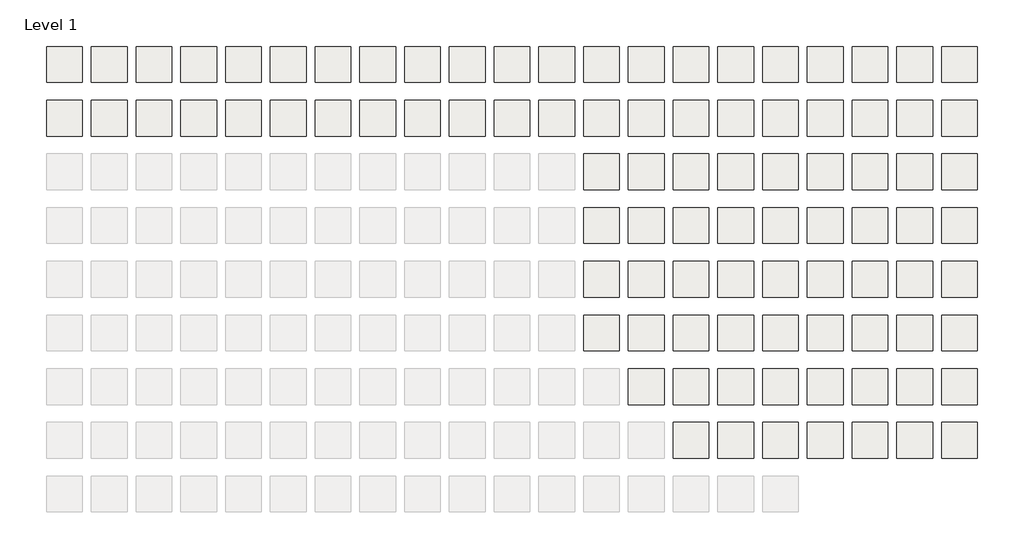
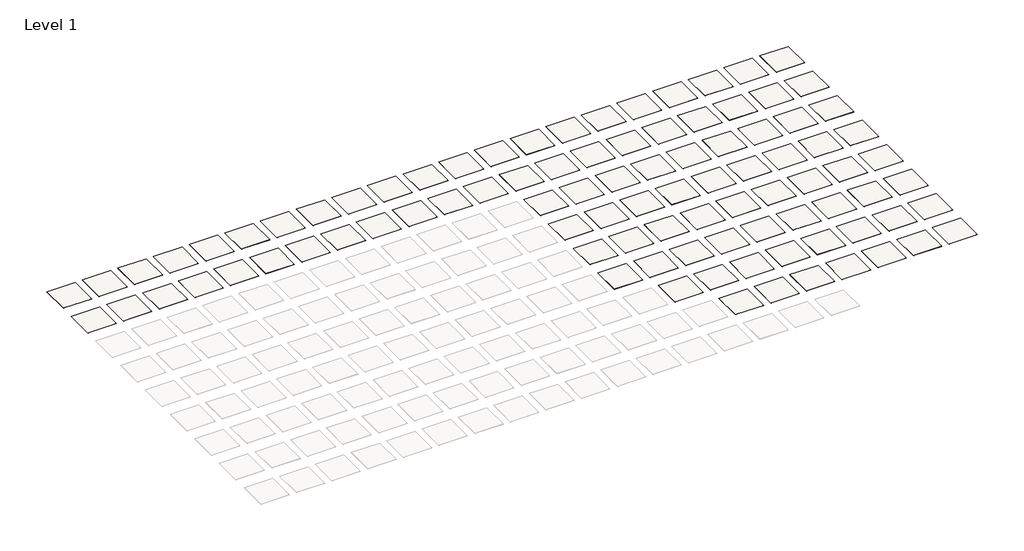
# One storey, part 2 of 2: 93 slabs.
"""IFC4 building model written with IfcOpenShell, lengths in millimetres."""

from ifc_helpers import new_model, si_unit, frame, origin, place, context, project, spatial, polyline, outline, extrude, element, save

model = new_model("IFC4")

# Units and contexts
model_context = context("Model", 3, world=origin())
ifc_project = project(units=[si_unit("LENGTHUNIT", "METRE", prefix="MILLI")], contexts=[model_context])

# Site, building, storey
site = spatial("IfcSite", under=ifc_project)
building = spatial("IfcBuilding", under=site)
storey = spatial("IfcBuildingStorey", under=building, Name="Level 1", Elevation=0.0)

# Slabs
placement = place(None, origin())
element("IfcSlab", 1, ObjectType="Tandus_03747", at=placement, inside=storey, context=model_context, shape_type="SweptSolid", body=[
    extrude(outline(polyline([(-34034.921095, 11042.9400814), (-41350.121095, 11042.9400814), (-41350.121095, 18358.1400814), (-34034.921095, 18358.1400814), (-34034.921095, 11042.9400814)])), frame((0.0, 0.0, -6.35), z_axis=(0.0, 0.0, 1.0), x_axis=(1.0, 0.0, 0.0)), (0.0, 0.0, 1.0), 6.35),
])
element("IfcSlab", 2, ObjectType="Tandus_03590", at=placement, inside=storey, context=model_context, shape_type="SweptSolid", body=[
    extrude(outline(polyline([(-6602.921095, 11042.9400814), (-13918.121095, 11042.9400814), (-13918.121095, 18358.1400814), (-6602.921095, 18358.1400814), (-6602.921095, 11042.9400814)])), frame((0.0, 0.0, -6.35), z_axis=(0.0, 0.0, 1.0), x_axis=(1.0, 0.0, 0.0)), (0.0, 0.0, 1.0), 6.35),
])
element("IfcSlab", 3, ObjectType="Tandus_04163", at=placement, inside=storey, context=model_context, shape_type="SweptSolid", body=[
    extrude(outline(polyline([(20829.078905, 11042.9400814), (13513.878905, 11042.9400814), (13513.878905, 18358.1400814), (20829.078905, 18358.1400814), (20829.078905, 11042.9400814)])), frame((0.0, 0.0, -6.35), z_axis=(0.0, 0.0, 1.0), x_axis=(1.0, 0.0, 0.0)), (0.0, 0.0, 1.0), 6.35),
])
element("IfcSlab", 4, ObjectType="Tandus_04255", at=placement, inside=storey, context=model_context, shape_type="SweptSolid", body=[
    extrude(outline(polyline([(29973.078905, 11042.9400814), (22657.878905, 11042.9400814), (22657.878905, 18358.1400814), (29973.078905, 18358.1400814), (29973.078905, 11042.9400814)])), frame((0.0, 0.0, -6.35), z_axis=(0.0, 0.0, 1.0), x_axis=(1.0, 0.0, 0.0)), (0.0, 0.0, 1.0), 6.35),
])
element("IfcSlab", 5, ObjectType="Tandus_03900", at=placement, inside=storey, context=model_context, shape_type="SweptSolid", body=[
    extrude(outline(polyline([(93981.078905, -21875.4599186), (86665.878905, -21875.4599186), (86665.878905, -14560.2599186), (93981.078905, -14560.2599186), (93981.078905, -21875.4599186)])), frame((0.0, 0.0, -6.35), z_axis=(0.0, 0.0, 1.0), x_axis=(1.0, 0.0, 0.0)), (0.0, 0.0, 1.0), 6.35),
])
element("IfcSlab", 6, ObjectType="Tandus_03934", at=placement, inside=storey, context=model_context, shape_type="SweptSolid", body=[
    extrude(outline(polyline([(148845.078905, -54793.8599186), (141529.878905, -54793.8599186), (141529.878905, -47478.6599186), (148845.078905, -47478.6599186), (148845.078905, -54793.8599186)])), frame((0.0, 0.0, -6.35), z_axis=(0.0, 0.0, 1.0), x_axis=(1.0, 0.0, 0.0)), (0.0, 0.0, 1.0), 6.35),
])
element("IfcSlab", 7, ObjectType="Tandus_02803", at=placement, inside=storey, context=model_context, shape_type="SweptSolid", body=[
    extrude(outline(polyline([(57405.078905, 11042.9400814), (50089.878905, 11042.9400814), (50089.878905, 18358.1400814), (57405.078905, 18358.1400814), (57405.078905, 11042.9400814)])), frame((0.0, 0.0, -6.35), z_axis=(0.0, 0.0, 1.0), x_axis=(1.0, 0.0, 0.0)), (0.0, 0.0, 1.0), 6.35),
])
element("IfcSlab", 8, ObjectType="Tandus_03666", at=placement, inside=storey, context=model_context, shape_type="SweptSolid", body=[
    extrude(outline(polyline([(2541.078905, 11042.9400814), (-4774.121095, 11042.9400814), (-4774.121095, 18358.1400814), (2541.078905, 18358.1400814), (2541.078905, 11042.9400814)])), frame((0.0, 0.0, -6.35), z_axis=(0.0, 0.0, 1.0), x_axis=(1.0, 0.0, 0.0)), (0.0, 0.0, 1.0), 6.35),
])
element("IfcSlab", 9, ObjectType="Tandus_03899", at=placement, inside=storey, context=model_context, shape_type="SweptSolid", body=[
    extrude(outline(polyline([(11685.078905, 11042.9400814), (4369.878905, 11042.9400814), (4369.878905, 18358.1400814), (11685.078905, 18358.1400814), (11685.078905, 11042.9400814)])), frame((0.0, 0.0, -6.35), z_axis=(0.0, 0.0, 1.0), x_axis=(1.0, 0.0, 0.0)), (0.0, 0.0, 1.0), 6.35),
])
element("IfcSlab", 10, ObjectType="Tandus_02931", at=placement, inside=storey, context=model_context, shape_type="SweptSolid", body=[
    extrude(outline(polyline([(84837.078905, 11042.9400814), (77521.878905, 11042.9400814), (77521.878905, 18358.1400814), (84837.078905, 18358.1400814), (84837.078905, 11042.9400814)])), frame((0.0, 0.0, -6.35), z_axis=(0.0, 0.0, 1.0), x_axis=(1.0, 0.0, 0.0)), (0.0, 0.0, 1.0), 6.35),
])
element("IfcSlab", 11, ObjectType="Tandus_03366", at=placement, inside=storey, context=model_context, shape_type="SweptSolid", body=[
    extrude(outline(polyline([(148845.078905, 70.1400814), (141529.878905, 70.1400814), (141529.878905, 7385.3400814), (148845.078905, 7385.3400814), (148845.078905, 70.1400814)])), frame((0.0, 0.0, -6.35), z_axis=(0.0, 0.0, 1.0), x_axis=(1.0, 0.0, 0.0)), (0.0, 0.0, 1.0), 6.35),
])
element("IfcSlab", 12, ObjectType="Tandus_03026", at=placement, inside=storey, context=model_context, shape_type="SweptSolid", body=[
    extrude(outline(polyline([(-24890.921095, 11042.9400814), (-32206.121095, 11042.9400814), (-32206.121095, 18358.1400814), (-24890.921095, 18358.1400814), (-24890.921095, 11042.9400814)])), frame((0.0, 0.0, -6.35), z_axis=(0.0, 0.0, 1.0), x_axis=(1.0, 0.0, 0.0)), (0.0, 0.0, 1.0), 6.35),
])
element("IfcSlab", 13, ObjectType="Tandus_02578", at=placement, inside=storey, context=model_context, shape_type="SweptSolid", body=[
    extrude(outline(polyline([(66549.078905, 11042.9400814), (59233.878905, 11042.9400814), (59233.878905, 18358.1400814), (66549.078905, 18358.1400814), (66549.078905, 11042.9400814)])), frame((0.0, 0.0, -6.35), z_axis=(0.0, 0.0, 1.0), x_axis=(1.0, 0.0, 0.0)), (0.0, 0.0, 1.0), 6.35),
])
element("IfcSlab", 14, ObjectType="Tandus_03333", at=placement, inside=storey, context=model_context, shape_type="SweptSolid", body=[
    extrude(outline(polyline([(75693.078905, 11042.9400814), (68377.878905, 11042.9400814), (68377.878905, 18358.1400814), (75693.078905, 18358.1400814), (75693.078905, 11042.9400814)])), frame((0.0, 0.0, -6.35), z_axis=(0.0, 0.0, 1.0), x_axis=(1.0, 0.0, 0.0)), (0.0, 0.0, 1.0), 6.35),
])
element("IfcSlab", 15, ObjectType="Tandus_03579", at=placement, inside=storey, context=model_context, shape_type="SweptSolid", body=[
    extrude(outline(polyline([(-15746.921095, 11042.9400814), (-23062.121095, 11042.9400814), (-23062.121095, 18358.1400814), (-15746.921095, 18358.1400814), (-15746.921095, 11042.9400814)])), frame((0.0, 0.0, -6.35), z_axis=(0.0, 0.0, 1.0), x_axis=(1.0, 0.0, 0.0)), (0.0, 0.0, 1.0), 6.35),
])
element("IfcSlab", 16, ObjectType="Tandus_04336", at=placement, inside=storey, context=model_context, shape_type="SweptSolid", body=[
    extrude(outline(polyline([(39117.078905, 11042.9400814), (31801.878905, 11042.9400814), (31801.878905, 18358.1400814), (39117.078905, 18358.1400814), (39117.078905, 11042.9400814)])), frame((0.0, 0.0, -6.35), z_axis=(0.0, 0.0, 1.0), x_axis=(1.0, 0.0, 0.0)), (0.0, 0.0, 1.0), 6.35),
])
element("IfcSlab", 17, ObjectType="Tandus_48002", at=placement, inside=storey, context=model_context, shape_type="SweptSolid", body=[
    extrude(outline(polyline([(48261.078905, 11042.9400814), (40945.878905, 11042.9400814), (40945.878905, 18358.1400814), (48261.078905, 18358.1400814), (48261.078905, 11042.9400814)])), frame((0.0, 0.0, -6.35), z_axis=(0.0, 0.0, 1.0), x_axis=(1.0, 0.0, 0.0)), (0.0, 0.0, 1.0), 6.35),
])
element("IfcSlab", 18, ObjectType="Tandus_48003", at=placement, inside=storey, context=model_context, shape_type="SweptSolid", body=[
    extrude(outline(polyline([(20829.078905, 70.1400814), (13513.878905, 70.1400814), (13513.878905, 7385.3400814), (20829.078905, 7385.3400814), (20829.078905, 70.1400814)])), frame((0.0, 0.0, -6.35), z_axis=(0.0, 0.0, 1.0), x_axis=(1.0, 0.0, 0.0)), (0.0, 0.0, 1.0), 6.35),
])
element("IfcSlab", 19, ObjectType="Tandus_03724", at=placement, inside=storey, context=model_context, shape_type="SweptSolid", body=[
    extrude(outline(polyline([(93981.078905, 11042.9400814), (86665.878905, 11042.9400814), (86665.878905, 18358.1400814), (93981.078905, 18358.1400814), (93981.078905, 11042.9400814)])), frame((0.0, 0.0, -6.35), z_axis=(0.0, 0.0, 1.0), x_axis=(1.0, 0.0, 0.0)), (0.0, 0.0, 1.0), 6.35),
])
element("IfcSlab", 20, ObjectType="Tandus_04224", at=placement, inside=storey, context=model_context, shape_type="SweptSolid", body=[
    extrude(outline(polyline([(103125.078905, 11042.9400814), (95809.878905, 11042.9400814), (95809.878905, 18358.1400814), (103125.078905, 18358.1400814), (103125.078905, 11042.9400814)])), frame((0.0, 0.0, -6.35), z_axis=(0.0, 0.0, 1.0), x_axis=(1.0, 0.0, 0.0)), (0.0, 0.0, 1.0), 6.35),
])
element("IfcSlab", 21, ObjectType="Tandus_44041", at=placement, inside=storey, context=model_context, shape_type="SweptSolid", body=[
    extrude(outline(polyline([(112269.078905, 11042.9400814), (104953.878905, 11042.9400814), (104953.878905, 18358.1400814), (112269.078905, 18358.1400814), (112269.078905, 11042.9400814)])), frame((0.0, 0.0, -6.35), z_axis=(0.0, 0.0, 1.0), x_axis=(1.0, 0.0, 0.0)), (0.0, 0.0, 1.0), 6.35),
])
element("IfcSlab", 22, ObjectType="Tandus_01957", at=placement, inside=storey, context=model_context, shape_type="SweptSolid", body=[
    extrude(outline(polyline([(121413.078905, 11042.9400814), (114097.878905, 11042.9400814), (114097.878905, 18358.1400814), (121413.078905, 18358.1400814), (121413.078905, 11042.9400814)])), frame((0.0, 0.0, -6.35), z_axis=(0.0, 0.0, 1.0), x_axis=(1.0, 0.0, 0.0)), (0.0, 0.0, 1.0), 6.35),
])
element("IfcSlab", 23, ObjectType="Tandus_44039", at=placement, inside=storey, context=model_context, shape_type="SweptSolid", body=[
    extrude(outline(polyline([(130557.078905, 11042.9400814), (123241.878905, 11042.9400814), (123241.878905, 18358.1400814), (130557.078905, 18358.1400814), (130557.078905, 11042.9400814)])), frame((0.0, 0.0, -6.35), z_axis=(0.0, 0.0, 1.0), x_axis=(1.0, 0.0, 0.0)), (0.0, 0.0, 1.0), 6.35),
])
element("IfcSlab", 24, ObjectType="Tandus_04162", at=placement, inside=storey, context=model_context, shape_type="SweptSolid", body=[
    extrude(outline(polyline([(139701.078905, 11042.9400814), (132385.878905, 11042.9400814), (132385.878905, 18358.1400814), (139701.078905, 18358.1400814), (139701.078905, 11042.9400814)])), frame((0.0, 0.0, -6.35), z_axis=(0.0, 0.0, 1.0), x_axis=(1.0, 0.0, 0.0)), (0.0, 0.0, 1.0), 6.35),
])
element("IfcSlab", 25, ObjectType="Tandus_03974", at=placement, inside=storey, context=model_context, shape_type="SweptSolid", body=[
    extrude(outline(polyline([(148845.078905, 11042.9400814), (141529.878905, 11042.9400814), (141529.878905, 18358.1400814), (148845.078905, 18358.1400814), (148845.078905, 11042.9400814)])), frame((0.0, 0.0, -6.35), z_axis=(0.0, 0.0, 1.0), x_axis=(1.0, 0.0, 0.0)), (0.0, 0.0, 1.0), 6.35),
])
element("IfcSlab", 26, ObjectType="Tandus_02443", at=placement, inside=storey, context=model_context, shape_type="SweptSolid", body=[
    extrude(outline(polyline([(-34034.921095, 70.1400814), (-41350.121095, 70.1400814), (-41350.121095, 7385.3400814), (-34034.921095, 7385.3400814), (-34034.921095, 70.1400814)])), frame((0.0, 0.0, -6.35), z_axis=(0.0, 0.0, 1.0), x_axis=(1.0, 0.0, 0.0)), (0.0, 0.0, 1.0), 6.35),
])
element("IfcSlab", 27, ObjectType="Tandus_03343", at=placement, inside=storey, context=model_context, shape_type="SweptSolid", body=[
    extrude(outline(polyline([(-24890.921095, 70.1400814), (-32206.121095, 70.1400814), (-32206.121095, 7385.3400814), (-24890.921095, 7385.3400814), (-24890.921095, 70.1400814)])), frame((0.0, 0.0, -6.35), z_axis=(0.0, 0.0, 1.0), x_axis=(1.0, 0.0, 0.0)), (0.0, 0.0, 1.0), 6.35),
])
element("IfcSlab", 28, ObjectType="Tandus_03479", at=placement, inside=storey, context=model_context, shape_type="SweptSolid", body=[
    extrude(outline(polyline([(-15746.921095, 70.1400814), (-23062.121095, 70.1400814), (-23062.121095, 7385.3400814), (-15746.921095, 7385.3400814), (-15746.921095, 70.1400814)])), frame((0.0, 0.0, -6.35), z_axis=(0.0, 0.0, 1.0), x_axis=(1.0, 0.0, 0.0)), (0.0, 0.0, 1.0), 6.35),
])
element("IfcSlab", 29, ObjectType="Tandus_03146", at=placement, inside=storey, context=model_context, shape_type="SweptSolid", body=[
    extrude(outline(polyline([(-6602.921095, 70.1400814), (-13918.121095, 70.1400814), (-13918.121095, 7385.3400814), (-6602.921095, 7385.3400814), (-6602.921095, 70.1400814)])), frame((0.0, 0.0, -6.35), z_axis=(0.0, 0.0, 1.0), x_axis=(1.0, 0.0, 0.0)), (0.0, 0.0, 1.0), 6.35),
])
element("IfcSlab", 30, ObjectType="Tandus_04252", at=placement, inside=storey, context=model_context, shape_type="SweptSolid", body=[
    extrude(outline(polyline([(2541.078905, 70.1400814), (-4774.121095, 70.1400814), (-4774.121095, 7385.3400814), (2541.078905, 7385.3400814), (2541.078905, 70.1400814)])), frame((0.0, 0.0, -6.35), z_axis=(0.0, 0.0, 1.0), x_axis=(1.0, 0.0, 0.0)), (0.0, 0.0, 1.0), 6.35),
])
element("IfcSlab", 31, ObjectType="Tandus_02591", at=placement, inside=storey, context=model_context, shape_type="SweptSolid", body=[
    extrude(outline(polyline([(11685.078905, 70.1400814), (4369.878905, 70.1400814), (4369.878905, 7385.3400814), (11685.078905, 7385.3400814), (11685.078905, 70.1400814)])), frame((0.0, 0.0, -6.35), z_axis=(0.0, 0.0, 1.0), x_axis=(1.0, 0.0, 0.0)), (0.0, 0.0, 1.0), 6.35),
])
element("IfcSlab", 32, ObjectType="Tandus_03672", at=placement, inside=storey, context=model_context, shape_type="SweptSolid", body=[
    extrude(outline(polyline([(29973.078905, 70.1400814), (22657.878905, 70.1400814), (22657.878905, 7385.3400814), (29973.078905, 7385.3400814), (29973.078905, 70.1400814)])), frame((0.0, 0.0, -6.35), z_axis=(0.0, 0.0, 1.0), x_axis=(1.0, 0.0, 0.0)), (0.0, 0.0, 1.0), 6.35),
])
element("IfcSlab", 33, ObjectType="Tandus_04119", at=placement, inside=storey, context=model_context, shape_type="SweptSolid", body=[
    extrude(outline(polyline([(39117.078905, 70.1400814), (31801.878905, 70.1400814), (31801.878905, 7385.3400814), (39117.078905, 7385.3400814), (39117.078905, 70.1400814)])), frame((0.0, 0.0, -6.35), z_axis=(0.0, 0.0, 1.0), x_axis=(1.0, 0.0, 0.0)), (0.0, 0.0, 1.0), 6.35),
])
element("IfcSlab", 34, ObjectType="Tandus_05187", at=placement, inside=storey, context=model_context, shape_type="SweptSolid", body=[
    extrude(outline(polyline([(48261.078905, 70.1400814), (40945.878905, 70.1400814), (40945.878905, 7385.3400814), (48261.078905, 7385.3400814), (48261.078905, 70.1400814)])), frame((0.0, 0.0, -6.35), z_axis=(0.0, 0.0, 1.0), x_axis=(1.0, 0.0, 0.0)), (0.0, 0.0, 1.0), 6.35),
])
element("IfcSlab", 35, ObjectType="Tandus_05175", at=placement, inside=storey, context=model_context, shape_type="SweptSolid", body=[
    extrude(outline(polyline([(57405.078905, 70.1400814), (50089.878905, 70.1400814), (50089.878905, 7385.3400814), (57405.078905, 7385.3400814), (57405.078905, 70.1400814)])), frame((0.0, 0.0, -6.35), z_axis=(0.0, 0.0, 1.0), x_axis=(1.0, 0.0, 0.0)), (0.0, 0.0, 1.0), 6.35),
])
element("IfcSlab", 36, ObjectType="Tandus_03746", at=placement, inside=storey, context=model_context, shape_type="SweptSolid", body=[
    extrude(outline(polyline([(66549.078905, 70.1400814), (59233.878905, 70.1400814), (59233.878905, 7385.3400814), (66549.078905, 7385.3400814), (66549.078905, 70.1400814)])), frame((0.0, 0.0, -6.35), z_axis=(0.0, 0.0, 1.0), x_axis=(1.0, 0.0, 0.0)), (0.0, 0.0, 1.0), 6.35),
])
element("IfcSlab", 37, ObjectType="Tandus_03377", at=placement, inside=storey, context=model_context, shape_type="SweptSolid", body=[
    extrude(outline(polyline([(75693.078905, 70.1400814), (68377.878905, 70.1400814), (68377.878905, 7385.3400814), (75693.078905, 7385.3400814), (75693.078905, 70.1400814)])), frame((0.0, 0.0, -6.35), z_axis=(0.0, 0.0, 1.0), x_axis=(1.0, 0.0, 0.0)), (0.0, 0.0, 1.0), 6.35),
])
element("IfcSlab", 38, ObjectType="Tandus_03853", at=placement, inside=storey, context=model_context, shape_type="SweptSolid", body=[
    extrude(outline(polyline([(84837.078905, 70.1400814), (77521.878905, 70.1400814), (77521.878905, 7385.3400814), (84837.078905, 7385.3400814), (84837.078905, 70.1400814)])), frame((0.0, 0.0, -6.35), z_axis=(0.0, 0.0, 1.0), x_axis=(1.0, 0.0, 0.0)), (0.0, 0.0, 1.0), 6.35),
])
element("IfcSlab", 39, ObjectType="Tandus_04389", at=placement, inside=storey, context=model_context, shape_type="SweptSolid", body=[
    extrude(outline(polyline([(93981.078905, 70.1400814), (86665.878905, 70.1400814), (86665.878905, 7385.3400814), (93981.078905, 7385.3400814), (93981.078905, 70.1400814)])), frame((0.0, 0.0, -6.35), z_axis=(0.0, 0.0, 1.0), x_axis=(1.0, 0.0, 0.0)), (0.0, 0.0, 1.0), 6.35),
])
element("IfcSlab", 40, ObjectType="Tandus_04370", at=placement, inside=storey, context=model_context, shape_type="SweptSolid", body=[
    extrude(outline(polyline([(103125.078905, 70.1400814), (95809.878905, 70.1400814), (95809.878905, 7385.3400814), (103125.078905, 7385.3400814), (103125.078905, 70.1400814)])), frame((0.0, 0.0, -6.35), z_axis=(0.0, 0.0, 1.0), x_axis=(1.0, 0.0, 0.0)), (0.0, 0.0, 1.0), 6.35),
])
element("IfcSlab", 41, ObjectType="Tandus_03848", at=placement, inside=storey, context=model_context, shape_type="SweptSolid", body=[
    extrude(outline(polyline([(112269.078905, 70.1400814), (104953.878905, 70.1400814), (104953.878905, 7385.3400814), (112269.078905, 7385.3400814), (112269.078905, 70.1400814)])), frame((0.0, 0.0, -6.35), z_axis=(0.0, 0.0, 1.0), x_axis=(1.0, 0.0, 0.0)), (0.0, 0.0, 1.0), 6.35),
])
element("IfcSlab", 42, ObjectType="Tandus_02969", at=placement, inside=storey, context=model_context, shape_type="SweptSolid", body=[
    extrude(outline(polyline([(121413.078905, 70.1400814), (114097.878905, 70.1400814), (114097.878905, 7385.3400814), (121413.078905, 7385.3400814), (121413.078905, 70.1400814)])), frame((0.0, 0.0, -6.35), z_axis=(0.0, 0.0, 1.0), x_axis=(1.0, 0.0, 0.0)), (0.0, 0.0, 1.0), 6.35),
])
element("IfcSlab", 43, ObjectType="Tandus_02127", at=placement, inside=storey, context=model_context, shape_type="SweptSolid", body=[
    extrude(outline(polyline([(130557.078905, 70.1400814), (123241.878905, 70.1400814), (123241.878905, 7385.3400814), (130557.078905, 7385.3400814), (130557.078905, 70.1400814)])), frame((0.0, 0.0, -6.35), z_axis=(0.0, 0.0, 1.0), x_axis=(1.0, 0.0, 0.0)), (0.0, 0.0, 1.0), 6.35),
])
element("IfcSlab", 44, ObjectType="Tandus_03867", at=placement, inside=storey, context=model_context, shape_type="SweptSolid", body=[
    extrude(outline(polyline([(139701.078905, 70.1400814), (132385.878905, 70.1400814), (132385.878905, 7385.3400814), (139701.078905, 7385.3400814), (139701.078905, 70.1400814)])), frame((0.0, 0.0, -6.35), z_axis=(0.0, 0.0, 1.0), x_axis=(1.0, 0.0, 0.0)), (0.0, 0.0, 1.0), 6.35),
])
element("IfcSlab", 45, ObjectType="Tandus_02667", at=placement, inside=storey, context=model_context, shape_type="SweptSolid", body=[
    extrude(outline(polyline([(75693.078905, -10902.6599186), (68377.878905, -10902.6599186), (68377.878905, -3587.4599186), (75693.078905, -3587.4599186), (75693.078905, -10902.6599186)])), frame((0.0, 0.0, -6.35), z_axis=(0.0, 0.0, 1.0), x_axis=(1.0, 0.0, 0.0)), (0.0, 0.0, 1.0), 6.35),
])
element("IfcSlab", 46, ObjectType="Tandus_04087", at=placement, inside=storey, context=model_context, shape_type="SweptSolid", body=[
    extrude(outline(polyline([(84837.078905, -10902.6599186), (77521.878905, -10902.6599186), (77521.878905, -3587.4599186), (84837.078905, -3587.4599186), (84837.078905, -10902.6599186)])), frame((0.0, 0.0, -6.35), z_axis=(0.0, 0.0, 1.0), x_axis=(1.0, 0.0, 0.0)), (0.0, 0.0, 1.0), 6.35),
])
element("IfcSlab", 47, ObjectType="Tandus_03136", at=placement, inside=storey, context=model_context, shape_type="SweptSolid", body=[
    extrude(outline(polyline([(93981.078905, -10902.6599186), (86665.878905, -10902.6599186), (86665.878905, -3587.4599186), (93981.078905, -3587.4599186), (93981.078905, -10902.6599186)])), frame((0.0, 0.0, -6.35), z_axis=(0.0, 0.0, 1.0), x_axis=(1.0, 0.0, 0.0)), (0.0, 0.0, 1.0), 6.35),
])
element("IfcSlab", 48, ObjectType="Tandus_03671", at=placement, inside=storey, context=model_context, shape_type="SweptSolid", body=[
    extrude(outline(polyline([(103125.078905, -10902.6599186), (95809.878905, -10902.6599186), (95809.878905, -3587.4599186), (103125.078905, -3587.4599186), (103125.078905, -10902.6599186)])), frame((0.0, 0.0, -6.35), z_axis=(0.0, 0.0, 1.0), x_axis=(1.0, 0.0, 0.0)), (0.0, 0.0, 1.0), 6.35),
])
element("IfcSlab", 49, ObjectType="Tandus_03748", at=placement, inside=storey, context=model_context, shape_type="SweptSolid", body=[
    extrude(outline(polyline([(112269.078905, -10902.6599186), (104953.878905, -10902.6599186), (104953.878905, -3587.4599186), (112269.078905, -3587.4599186), (112269.078905, -10902.6599186)])), frame((0.0, 0.0, -6.35), z_axis=(0.0, 0.0, 1.0), x_axis=(1.0, 0.0, 0.0)), (0.0, 0.0, 1.0), 6.35),
])
element("IfcSlab", 50, ObjectType="Tandus_02977", at=placement, inside=storey, context=model_context, shape_type="SweptSolid", body=[
    extrude(outline(polyline([(121413.078905, -10902.6599186), (114097.878905, -10902.6599186), (114097.878905, -3587.4599186), (121413.078905, -3587.4599186), (121413.078905, -10902.6599186)])), frame((0.0, 0.0, -6.35), z_axis=(0.0, 0.0, 1.0), x_axis=(1.0, 0.0, 0.0)), (0.0, 0.0, 1.0), 6.35),
])
element("IfcSlab", 51, ObjectType="Tandus_03352", at=placement, inside=storey, context=model_context, shape_type="SweptSolid", body=[
    extrude(outline(polyline([(130557.078905, -10902.6599186), (123241.878905, -10902.6599186), (123241.878905, -3587.4599186), (130557.078905, -3587.4599186), (130557.078905, -10902.6599186)])), frame((0.0, 0.0, -6.35), z_axis=(0.0, 0.0, 1.0), x_axis=(1.0, 0.0, 0.0)), (0.0, 0.0, 1.0), 6.35),
])
element("IfcSlab", 52, ObjectType="Tandus_03101", at=placement, inside=storey, context=model_context, shape_type="SweptSolid", body=[
    extrude(outline(polyline([(139701.078905, -10902.6599186), (132385.878905, -10902.6599186), (132385.878905, -3587.4599186), (139701.078905, -3587.4599186), (139701.078905, -10902.6599186)])), frame((0.0, 0.0, -6.35), z_axis=(0.0, 0.0, 1.0), x_axis=(1.0, 0.0, 0.0)), (0.0, 0.0, 1.0), 6.35),
])
element("IfcSlab", 53, ObjectType="Tandus_03669", at=placement, inside=storey, context=model_context, shape_type="SweptSolid", body=[
    extrude(outline(polyline([(148845.078905, -10902.6599186), (141529.878905, -10902.6599186), (141529.878905, -3587.4599186), (148845.078905, -3587.4599186), (148845.078905, -10902.6599186)])), frame((0.0, 0.0, -6.35), z_axis=(0.0, 0.0, 1.0), x_axis=(1.0, 0.0, 0.0)), (0.0, 0.0, 1.0), 6.35),
])
element("IfcSlab", 54, ObjectType="Tandus_04337", at=placement, inside=storey, context=model_context, shape_type="SweptSolid", body=[
    extrude(outline(polyline([(75693.078905, -21875.4599186), (68377.878905, -21875.4599186), (68377.878905, -14560.2599186), (75693.078905, -14560.2599186), (75693.078905, -21875.4599186)])), frame((0.0, 0.0, -6.35), z_axis=(0.0, 0.0, 1.0), x_axis=(1.0, 0.0, 0.0)), (0.0, 0.0, 1.0), 6.35),
])
element("IfcSlab", 55, ObjectType="Tandus_04415", at=placement, inside=storey, context=model_context, shape_type="SweptSolid", body=[
    extrude(outline(polyline([(84837.078905, -21875.4599186), (77521.878905, -21875.4599186), (77521.878905, -14560.2599186), (84837.078905, -14560.2599186), (84837.078905, -21875.4599186)])), frame((0.0, 0.0, -6.35), z_axis=(0.0, 0.0, 1.0), x_axis=(1.0, 0.0, 0.0)), (0.0, 0.0, 1.0), 6.35),
])
element("IfcSlab", 56, ObjectType="Tandus_02499", at=placement, inside=storey, context=model_context, shape_type="SweptSolid", body=[
    extrude(outline(polyline([(103125.078905, -21875.4599186), (95809.878905, -21875.4599186), (95809.878905, -14560.2599186), (103125.078905, -14560.2599186), (103125.078905, -21875.4599186)])), frame((0.0, 0.0, -6.35), z_axis=(0.0, 0.0, 1.0), x_axis=(1.0, 0.0, 0.0)), (0.0, 0.0, 1.0), 6.35),
])
element("IfcSlab", 57, ObjectType="Tandus_04042", at=placement, inside=storey, context=model_context, shape_type="SweptSolid", body=[
    extrude(outline(polyline([(112269.078905, -21875.4599186), (104953.878905, -21875.4599186), (104953.878905, -14560.2599186), (112269.078905, -14560.2599186), (112269.078905, -21875.4599186)])), frame((0.0, 0.0, -6.35), z_axis=(0.0, 0.0, 1.0), x_axis=(1.0, 0.0, 0.0)), (0.0, 0.0, 1.0), 6.35),
])
element("IfcSlab", 58, ObjectType="Tandus_03606", at=placement, inside=storey, context=model_context, shape_type="SweptSolid", body=[
    extrude(outline(polyline([(121413.078905, -21875.4599186), (114097.878905, -21875.4599186), (114097.878905, -14560.2599186), (121413.078905, -14560.2599186), (121413.078905, -21875.4599186)])), frame((0.0, 0.0, -6.35), z_axis=(0.0, 0.0, 1.0), x_axis=(1.0, 0.0, 0.0)), (0.0, 0.0, 1.0), 6.35),
])
element("IfcSlab", 59, ObjectType="Tandus_04339", at=placement, inside=storey, context=model_context, shape_type="SweptSolid", body=[
    extrude(outline(polyline([(130557.078905, -21875.4599186), (123241.878905, -21875.4599186), (123241.878905, -14560.2599186), (130557.078905, -14560.2599186), (130557.078905, -21875.4599186)])), frame((0.0, 0.0, -6.35), z_axis=(0.0, 0.0, 1.0), x_axis=(1.0, 0.0, 0.0)), (0.0, 0.0, 1.0), 6.35),
])
element("IfcSlab", 60, ObjectType="Tandus_03581", at=placement, inside=storey, context=model_context, shape_type="SweptSolid", body=[
    extrude(outline(polyline([(139701.078905, -21875.4599186), (132385.878905, -21875.4599186), (132385.878905, -14560.2599186), (139701.078905, -14560.2599186), (139701.078905, -21875.4599186)])), frame((0.0, 0.0, -6.35), z_axis=(0.0, 0.0, 1.0), x_axis=(1.0, 0.0, 0.0)), (0.0, 0.0, 1.0), 6.35),
])
element("IfcSlab", 61, ObjectType="Tandus_04073", at=placement, inside=storey, context=model_context, shape_type="SweptSolid", body=[
    extrude(outline(polyline([(148845.078905, -21875.4599186), (141529.878905, -21875.4599186), (141529.878905, -14560.2599186), (148845.078905, -14560.2599186), (148845.078905, -21875.4599186)])), frame((0.0, 0.0, -6.35), z_axis=(0.0, 0.0, 1.0), x_axis=(1.0, 0.0, 0.0)), (0.0, 0.0, 1.0), 6.35),
])
element("IfcSlab", 62, ObjectType="Tandus_40008", at=placement, inside=storey, context=model_context, shape_type="SweptSolid", body=[
    extrude(outline(polyline([(75693.078905, -32848.2599186), (68377.878905, -32848.2599186), (68377.878905, -25533.0599186), (75693.078905, -25533.0599186), (75693.078905, -32848.2599186)])), frame((0.0, 0.0, -6.35), z_axis=(0.0, 0.0, 1.0), x_axis=(1.0, 0.0, 0.0)), (0.0, 0.0, 1.0), 6.35),
])
element("IfcSlab", 63, ObjectType="Tandus_32032", at=placement, inside=storey, context=model_context, shape_type="SweptSolid", body=[
    extrude(outline(polyline([(84837.078905, -32848.2599186), (77521.878905, -32848.2599186), (77521.878905, -25533.0599186), (84837.078905, -25533.0599186), (84837.078905, -32848.2599186)])), frame((0.0, 0.0, -6.35), z_axis=(0.0, 0.0, 1.0), x_axis=(1.0, 0.0, 0.0)), (0.0, 0.0, 1.0), 6.35),
])
element("IfcSlab", 64, ObjectType="Tandus_04075", at=placement, inside=storey, context=model_context, shape_type="SweptSolid", body=[
    extrude(outline(polyline([(103125.078905, -32848.2599186), (95809.878905, -32848.2599186), (95809.878905, -25533.0599186), (103125.078905, -25533.0599186), (103125.078905, -32848.2599186)])), frame((0.0, 0.0, -6.35), z_axis=(0.0, 0.0, 1.0), x_axis=(1.0, 0.0, 0.0)), (0.0, 0.0, 1.0), 6.35),
])
element("IfcSlab", 65, ObjectType="Tandus_03988", at=placement, inside=storey, context=model_context, shape_type="SweptSolid", body=[
    extrude(outline(polyline([(93981.078905, -32848.2599186), (86665.878905, -32848.2599186), (86665.878905, -25533.0599186), (93981.078905, -25533.0599186), (93981.078905, -32848.2599186)])), frame((0.0, 0.0, -6.35), z_axis=(0.0, 0.0, 1.0), x_axis=(1.0, 0.0, 0.0)), (0.0, 0.0, 1.0), 6.35),
])
element("IfcSlab", 66, ObjectType="Tandus_40029", at=placement, inside=storey, context=model_context, shape_type="SweptSolid", body=[
    extrude(outline(polyline([(112269.078905, -32848.2599186), (104953.878905, -32848.2599186), (104953.878905, -25533.0599186), (112269.078905, -25533.0599186), (112269.078905, -32848.2599186)])), frame((0.0, 0.0, -6.35), z_axis=(0.0, 0.0, 1.0), x_axis=(1.0, 0.0, 0.0)), (0.0, 0.0, 1.0), 6.35),
])
element("IfcSlab", 67, ObjectType="Tandus_60121", at=placement, inside=storey, context=model_context, shape_type="SweptSolid", body=[
    extrude(outline(polyline([(121413.078905, -32848.2599186), (114097.878905, -32848.2599186), (114097.878905, -25533.0599186), (121413.078905, -25533.0599186), (121413.078905, -32848.2599186)])), frame((0.0, 0.0, -6.35), z_axis=(0.0, 0.0, 1.0), x_axis=(1.0, 0.0, 0.0)), (0.0, 0.0, 1.0), 6.35),
])
element("IfcSlab", 68, ObjectType="Tandus_40025", at=placement, inside=storey, context=model_context, shape_type="SweptSolid", body=[
    extrude(outline(polyline([(130557.078905, -32848.2599186), (123241.878905, -32848.2599186), (123241.878905, -25533.0599186), (130557.078905, -25533.0599186), (130557.078905, -32848.2599186)])), frame((0.0, 0.0, -6.35), z_axis=(0.0, 0.0, 1.0), x_axis=(1.0, 0.0, 0.0)), (0.0, 0.0, 1.0), 6.35),
])
element("IfcSlab", 69, ObjectType="Tandus_40023", at=placement, inside=storey, context=model_context, shape_type="SweptSolid", body=[
    extrude(outline(polyline([(139701.078905, -32848.2599186), (132385.878905, -32848.2599186), (132385.878905, -25533.0599186), (139701.078905, -25533.0599186), (139701.078905, -32848.2599186)])), frame((0.0, 0.0, -6.35), z_axis=(0.0, 0.0, 1.0), x_axis=(1.0, 0.0, 0.0)), (0.0, 0.0, 1.0), 6.35),
])
element("IfcSlab", 70, ObjectType="Tandus_30400", at=placement, inside=storey, context=model_context, shape_type="SweptSolid", body=[
    extrude(outline(polyline([(148845.078905, -32848.2599186), (141529.878905, -32848.2599186), (141529.878905, -25533.0599186), (148845.078905, -25533.0599186), (148845.078905, -32848.2599186)])), frame((0.0, 0.0, -6.35), z_axis=(0.0, 0.0, 1.0), x_axis=(1.0, 0.0, 0.0)), (0.0, 0.0, 1.0), 6.35),
])
element("IfcSlab", 71, ObjectType="Tandus_40028", at=placement, inside=storey, context=model_context, shape_type="SweptSolid", body=[
    extrude(outline(polyline([(75693.078905, -43821.0599186), (68377.878905, -43821.0599186), (68377.878905, -36505.8599186), (75693.078905, -36505.8599186), (75693.078905, -43821.0599186)])), frame((0.0, 0.0, -6.35), z_axis=(0.0, 0.0, 1.0), x_axis=(1.0, 0.0, 0.0)), (0.0, 0.0, 1.0), 6.35),
])
element("IfcSlab", 72, ObjectType="Tandus_40033", at=placement, inside=storey, context=model_context, shape_type="SweptSolid", body=[
    extrude(outline(polyline([(84837.078905, -43821.0599186), (77521.878905, -43821.0599186), (77521.878905, -36505.8599186), (84837.078905, -36505.8599186), (84837.078905, -43821.0599186)])), frame((0.0, 0.0, -6.35), z_axis=(0.0, 0.0, 1.0), x_axis=(1.0, 0.0, 0.0)), (0.0, 0.0, 1.0), 6.35),
])
element("IfcSlab", 73, ObjectType="Tandus_40041", at=placement, inside=storey, context=model_context, shape_type="SweptSolid", body=[
    extrude(outline(polyline([(93981.078905, -43821.0599186), (86665.878905, -43821.0599186), (86665.878905, -36505.8599186), (93981.078905, -36505.8599186), (93981.078905, -43821.0599186)])), frame((0.0, 0.0, -6.35), z_axis=(0.0, 0.0, 1.0), x_axis=(1.0, 0.0, 0.0)), (0.0, 0.0, 1.0), 6.35),
])
element("IfcSlab", 74, ObjectType="Tandus_03757", at=placement, inside=storey, context=model_context, shape_type="SweptSolid", body=[
    extrude(outline(polyline([(103125.078905, -43821.0599186), (95809.878905, -43821.0599186), (95809.878905, -36505.8599186), (103125.078905, -36505.8599186), (103125.078905, -43821.0599186)])), frame((0.0, 0.0, -6.35), z_axis=(0.0, 0.0, 1.0), x_axis=(1.0, 0.0, 0.0)), (0.0, 0.0, 1.0), 6.35),
])
element("IfcSlab", 75, ObjectType="Tandus_44042", at=placement, inside=storey, context=model_context, shape_type="SweptSolid", body=[
    extrude(outline(polyline([(112269.078905, -43821.0599186), (104953.878905, -43821.0599186), (104953.878905, -36505.8599186), (112269.078905, -36505.8599186), (112269.078905, -43821.0599186)])), frame((0.0, 0.0, -6.35), z_axis=(0.0, 0.0, 1.0), x_axis=(1.0, 0.0, 0.0)), (0.0, 0.0, 1.0), 6.35),
])
element("IfcSlab", 76, ObjectType="Tandus_02813", at=placement, inside=storey, context=model_context, shape_type="SweptSolid", body=[
    extrude(outline(polyline([(121413.078905, -43821.0599186), (114097.878905, -43821.0599186), (114097.878905, -36505.8599186), (121413.078905, -36505.8599186), (121413.078905, -43821.0599186)])), frame((0.0, 0.0, -6.35), z_axis=(0.0, 0.0, 1.0), x_axis=(1.0, 0.0, 0.0)), (0.0, 0.0, 1.0), 6.35),
])
element("IfcSlab", 77, ObjectType="Tandus_03310", at=placement, inside=storey, context=model_context, shape_type="SweptSolid", body=[
    extrude(outline(polyline([(130557.078905, -43821.0599186), (123241.878905, -43821.0599186), (123241.878905, -36505.8599186), (130557.078905, -36505.8599186), (130557.078905, -43821.0599186)])), frame((0.0, 0.0, -6.35), z_axis=(0.0, 0.0, 1.0), x_axis=(1.0, 0.0, 0.0)), (0.0, 0.0, 1.0), 6.35),
])
element("IfcSlab", 78, ObjectType="Tandus_40037", at=placement, inside=storey, context=model_context, shape_type="SweptSolid", body=[
    extrude(outline(polyline([(139701.078905, -43821.0599186), (132385.878905, -43821.0599186), (132385.878905, -36505.8599186), (139701.078905, -36505.8599186), (139701.078905, -43821.0599186)])), frame((0.0, 0.0, -6.35), z_axis=(0.0, 0.0, 1.0), x_axis=(1.0, 0.0, 0.0)), (0.0, 0.0, 1.0), 6.35),
])
element("IfcSlab", 79, ObjectType="Tandus_60125", at=placement, inside=storey, context=model_context, shape_type="SweptSolid", body=[
    extrude(outline(polyline([(148845.078905, -43821.0599186), (141529.878905, -43821.0599186), (141529.878905, -36505.8599186), (148845.078905, -36505.8599186), (148845.078905, -43821.0599186)])), frame((0.0, 0.0, -6.35), z_axis=(0.0, 0.0, 1.0), x_axis=(1.0, 0.0, 0.0)), (0.0, 0.0, 1.0), 6.35),
])
element("IfcSlab", 80, ObjectType="Tandus_44024", at=placement, inside=storey, context=model_context, shape_type="SweptSolid", body=[
    extrude(outline(polyline([(84837.078905, -54793.8599186), (77521.878905, -54793.8599186), (77521.878905, -47478.6599186), (84837.078905, -47478.6599186), (84837.078905, -54793.8599186)])), frame((0.0, 0.0, -6.35), z_axis=(0.0, 0.0, 1.0), x_axis=(1.0, 0.0, 0.0)), (0.0, 0.0, 1.0), 6.35),
])
element("IfcSlab", 81, ObjectType="Tandus_40007", at=placement, inside=storey, context=model_context, shape_type="SweptSolid", body=[
    extrude(outline(polyline([(93981.078905, -54793.8599186), (86665.878905, -54793.8599186), (86665.878905, -47478.6599186), (93981.078905, -47478.6599186), (93981.078905, -54793.8599186)])), frame((0.0, 0.0, -6.35), z_axis=(0.0, 0.0, 1.0), x_axis=(1.0, 0.0, 0.0)), (0.0, 0.0, 1.0), 6.35),
])
element("IfcSlab", 82, ObjectType="Tandus_40026", at=placement, inside=storey, context=model_context, shape_type="SweptSolid", body=[
    extrude(outline(polyline([(103125.078905, -54793.8599186), (95809.878905, -54793.8599186), (95809.878905, -47478.6599186), (103125.078905, -47478.6599186), (103125.078905, -54793.8599186)])), frame((0.0, 0.0, -6.35), z_axis=(0.0, 0.0, 1.0), x_axis=(1.0, 0.0, 0.0)), (0.0, 0.0, 1.0), 6.35),
])
element("IfcSlab", 83, ObjectType="Tandus_02409", at=placement, inside=storey, context=model_context, shape_type="SweptSolid", body=[
    extrude(outline(polyline([(112269.078905, -54793.8599186), (104953.878905, -54793.8599186), (104953.878905, -47478.6599186), (112269.078905, -47478.6599186), (112269.078905, -54793.8599186)])), frame((0.0, 0.0, -6.35), z_axis=(0.0, 0.0, 1.0), x_axis=(1.0, 0.0, 0.0)), (0.0, 0.0, 1.0), 6.35),
])
element("IfcSlab", 84, ObjectType="Tandus_04390", at=placement, inside=storey, context=model_context, shape_type="SweptSolid", body=[
    extrude(outline(polyline([(121413.078905, -54793.8599186), (114097.878905, -54793.8599186), (114097.878905, -47478.6599186), (121413.078905, -47478.6599186), (121413.078905, -54793.8599186)])), frame((0.0, 0.0, -6.35), z_axis=(0.0, 0.0, 1.0), x_axis=(1.0, 0.0, 0.0)), (0.0, 0.0, 1.0), 6.35),
])
element("IfcSlab", 85, ObjectType="Tandus_51082", at=placement, inside=storey, context=model_context, shape_type="SweptSolid", body=[
    extrude(outline(polyline([(130557.078905, -54793.8599186), (123241.878905, -54793.8599186), (123241.878905, -47478.6599186), (130557.078905, -47478.6599186), (130557.078905, -54793.8599186)])), frame((0.0, 0.0, -6.35), z_axis=(0.0, 0.0, 1.0), x_axis=(1.0, 0.0, 0.0)), (0.0, 0.0, 1.0), 6.35),
])
element("IfcSlab", 86, ObjectType="Tandus_51085", at=placement, inside=storey, context=model_context, shape_type="SweptSolid", body=[
    extrude(outline(polyline([(139701.078905, -54793.8599186), (132385.878905, -54793.8599186), (132385.878905, -47478.6599186), (139701.078905, -47478.6599186), (139701.078905, -54793.8599186)])), frame((0.0, 0.0, -6.35), z_axis=(0.0, 0.0, 1.0), x_axis=(1.0, 0.0, 0.0)), (0.0, 0.0, 1.0), 6.35),
])
element("IfcSlab", 87, ObjectType="Tandus_03935", at=placement, inside=storey, context=model_context, shape_type="SweptSolid", body=[
    extrude(outline(polyline([(93981.078905, -65766.6599186), (86665.878905, -65766.6599186), (86665.878905, -58451.4599186), (93981.078905, -58451.4599186), (93981.078905, -65766.6599186)])), frame((0.0, 0.0, -6.35), z_axis=(0.0, 0.0, 1.0), x_axis=(1.0, 0.0, 0.0)), (0.0, 0.0, 1.0), 6.35),
])
element("IfcSlab", 88, ObjectType="Tandus_30398", at=placement, inside=storey, context=model_context, shape_type="SweptSolid", body=[
    extrude(outline(polyline([(103125.078905, -65766.6599186), (95809.878905, -65766.6599186), (95809.878905, -58451.4599186), (103125.078905, -58451.4599186), (103125.078905, -65766.6599186)])), frame((0.0, 0.0, -6.35), z_axis=(0.0, 0.0, 1.0), x_axis=(1.0, 0.0, 0.0)), (0.0, 0.0, 1.0), 6.35),
])
element("IfcSlab", 89, ObjectType="Tandus_44031", at=placement, inside=storey, context=model_context, shape_type="SweptSolid", body=[
    extrude(outline(polyline([(112269.078905, -65766.6599186), (104953.878905, -65766.6599186), (104953.878905, -58451.4599186), (112269.078905, -58451.4599186), (112269.078905, -65766.6599186)])), frame((0.0, 0.0, -6.35), z_axis=(0.0, 0.0, 1.0), x_axis=(1.0, 0.0, 0.0)), (0.0, 0.0, 1.0), 6.35),
])
element("IfcSlab", 90, ObjectType="Tandus_40035", at=placement, inside=storey, context=model_context, shape_type="SweptSolid", body=[
    extrude(outline(polyline([(121413.078905, -65766.6599186), (114097.878905, -65766.6599186), (114097.878905, -58451.4599186), (121413.078905, -58451.4599186), (121413.078905, -65766.6599186)])), frame((0.0, 0.0, -6.35), z_axis=(0.0, 0.0, 1.0), x_axis=(1.0, 0.0, 0.0)), (0.0, 0.0, 1.0), 6.35),
])
element("IfcSlab", 91, ObjectType="Tandus_02875", at=placement, inside=storey, context=model_context, shape_type="SweptSolid", body=[
    extrude(outline(polyline([(130557.078905, -65766.6599186), (123241.878905, -65766.6599186), (123241.878905, -58451.4599186), (130557.078905, -58451.4599186), (130557.078905, -65766.6599186)])), frame((0.0, 0.0, -6.35), z_axis=(0.0, 0.0, 1.0), x_axis=(1.0, 0.0, 0.0)), (0.0, 0.0, 1.0), 6.35),
])
element("IfcSlab", 92, ObjectType="Tandus_04321", at=placement, inside=storey, context=model_context, shape_type="SweptSolid", body=[
    extrude(outline(polyline([(139701.078905, -65766.6599186), (132385.878905, -65766.6599186), (132385.878905, -58451.4599186), (139701.078905, -58451.4599186), (139701.078905, -65766.6599186)])), frame((0.0, 0.0, -6.35), z_axis=(0.0, 0.0, 1.0), x_axis=(1.0, 0.0, 0.0)), (0.0, 0.0, 1.0), 6.35),
])
element("IfcSlab", 93, ObjectType="Tandus_04121", at=placement, inside=storey, context=model_context, shape_type="SweptSolid", body=[
    extrude(outline(polyline([(148845.078905, -65766.6599186), (141529.878905, -65766.6599186), (141529.878905, -58451.4599186), (148845.078905, -58451.4599186), (148845.078905, -65766.6599186)])), frame((0.0, 0.0, -6.35), z_axis=(0.0, 0.0, 1.0), x_axis=(1.0, 0.0, 0.0)), (0.0, 0.0, 1.0), 6.35),
])

save(model, "model.ifc")
